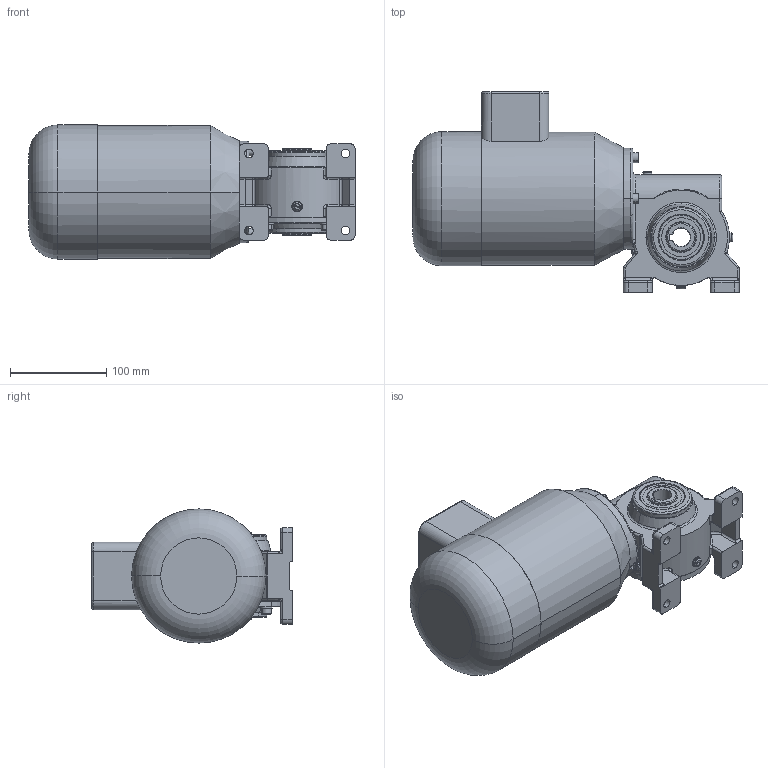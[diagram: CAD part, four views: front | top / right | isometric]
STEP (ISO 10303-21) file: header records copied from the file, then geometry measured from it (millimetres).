
FILE_DESCRIPTION (( 'STEP AP214' ), '1' );
FILE_NAME ('SN9SHH_250W_Drehstrom-Motor_D.STEP', '2021-05-10T10:35:45', ( '' ), ( '' ), 'SwSTEP 2.0', 'SolidWorks 2019', '' );
FILE_SCHEMA (( 'AUTOMOTIVE_DESIGN' ));
Length unit declared in the file: millimetre
Products named in the file (1): SN9SHH_250W_Drehstrom-Motor_D
Bounding box: 338 x 208 x 139 mm (x, y, z)
Surface area: 210028.6 mm2 (no closed solid volume)
Topology: 0 solids, 28 shells, 441 faces, 1175 edges, 723 vertices
Faces by surface type: cylinder 157, plane 147, torus 69, cone 47, bspline 17, sphere 4
Entity records: 20088 total; most frequent: CARTESIAN_POINT 4402, DIRECTION 2421, ORIENTED_EDGE 2060, EDGE_CURVE 1148, AXIS2_PLACEMENT_3D 967, VERTEX_POINT 719, CIRCLE 542, EDGE_LOOP 496
